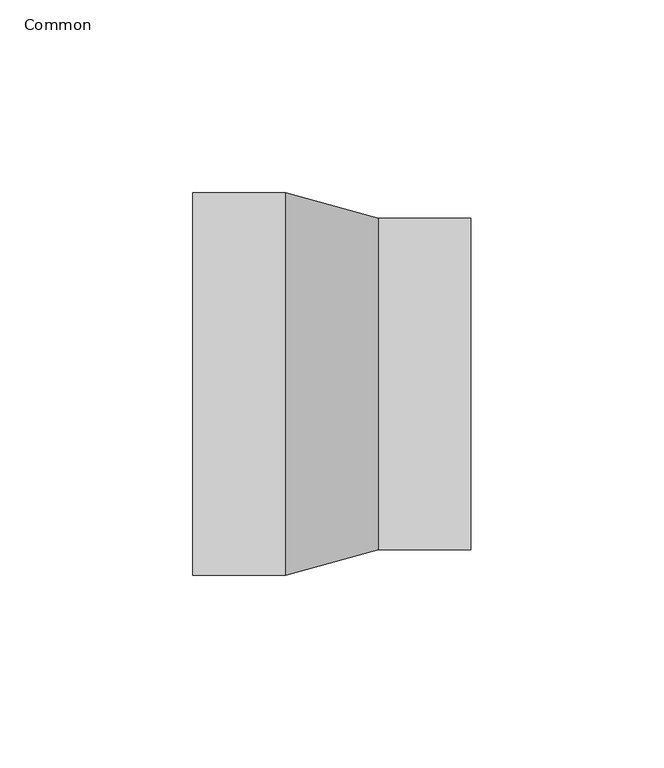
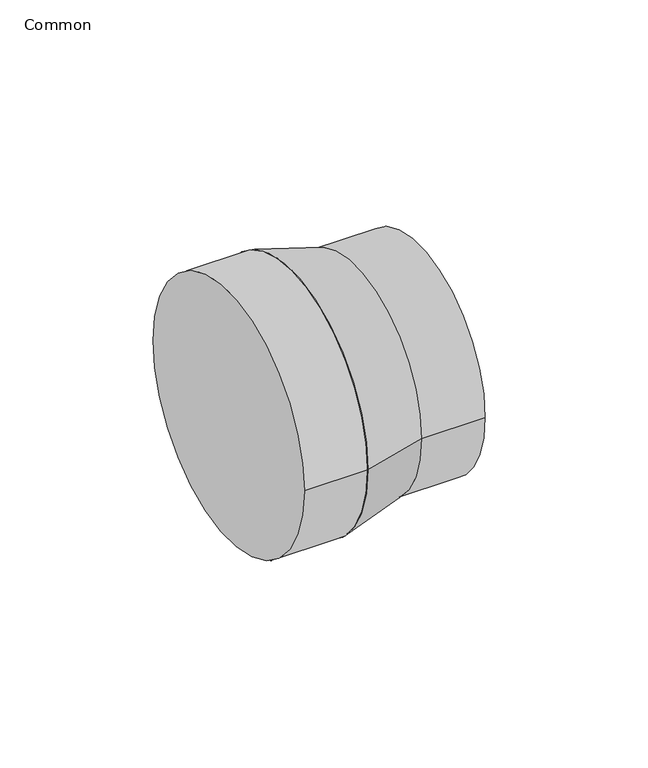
"""IFC4 building model written with IfcOpenShell, lengths in millimetres: pipe fitting geometry, 041_レジューサ : Common."""

from ifc_helpers import new_model, si_unit, point, frame, origin, origin_2d, place, context, project, spatial, polyline, circle_curve, trimmed, segment, composite_curve, outline, extrude, source, transform, mapped, element, save
from ifc_brep_helpers import plane_surface, revolved_surface, advanced_brep


def common_364c500f(model_context):
    return source(origin(), model_context, "Body", "SolidModel", [
        advanced_brep(
        [(48.0, -43.0, 0.0), (48.0, 43.0, 0.0), (24.0, -49.5, 0.0), (24.0, 49.5, 0.0)],
        [
            (0, 1, circle_curve(frame((48.0, 0.0, 0.0), z_axis=(1.0, 0.0, 0.0), x_axis=(0.0, -1.0, 0.0)), 43.0)),
            (1, 0, circle_curve(frame((48.0, 0.0, 0.0), z_axis=(1.0, 0.0, 0.0), x_axis=(0.0, 1.0, 0.0)), 43.0)),
            (2, 3, circle_curve(frame((24.0, 0.0, 0.0), z_axis=(-1.0, 0.0, 0.0), x_axis=(0.0, 1.0, 0.0)), 49.5)),
            (3, 2, circle_curve(frame((24.0, 0.0, 0.0), z_axis=(-1.0, 0.0, 0.0), x_axis=(0.0, -1.0, 0.0)), 49.5)),
            (3, 1),
            (0, 2),
        ],
        [
            plane_surface(frame((48.0, 0.0, 0.0), z_axis=(1.0, 0.0, 0.0), x_axis=(0.0, 0.0, -1.0))),
            plane_surface(frame((24.0, 0.0, 0.0), z_axis=(-1.0, 0.0, 0.0), x_axis=(0.0, 0.0, -1.0))),
            revolved_surface(polyline([(48.0, -43.00000000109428, 0.0), (24.0, -49.5, 0.0)]), (206.7692308, 0.0, 0.0), (-1.0, 0.0, 0.0)),
            revolved_surface(polyline([(48.0, 43.00000000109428, 0.0), (24.0, 49.5, 0.0)]), (206.7692308, 0.0, 0.0), (-1.0, 0.0, 0.0)),
        ],
        [
            (0, [[1, 2]]),
            (1, [[3, 4]]),
            (2, [[-4, 5, -1, 6]]),
            (3, [[-3, -6, -2, -5]]),
        ],
    ),
        extrude(outline(composite_curve([segment(trimmed(circle_curve(origin_2d(), 43.0), [point((-43.0, 0.0))], [point((43.0, 0.0))], False, "CARTESIAN"), True, "CONTINUOUS"), segment(trimmed(circle_curve(origin_2d(), 43.0), [point((43.0, 0.0))], [point((-43.0, 0.0))], False, "CARTESIAN"), True, "CONTINUOUS")], self_intersect=False)), frame((48.0, 0.0, 0.0), z_axis=(1.0, 0.0, 0.0), x_axis=(0.0, 1.0, 0.0)), (0.0, 0.0, 1.0), 24.0),
        extrude(outline(composite_curve([segment(trimmed(circle_curve(origin_2d(), 49.5), [point((-49.5, 0.0))], [point((49.5, 0.0))], False, "CARTESIAN"), True, "CONTINUOUS"), segment(trimmed(circle_curve(origin_2d(), 49.5), [point((49.5, 0.0))], [point((-49.5, 0.0))], False, "CARTESIAN"), True, "CONTINUOUS")], self_intersect=False)), frame((0.0, 0.0, 0.0), z_axis=(1.0, 0.0, 0.0), x_axis=(0.0, 1.0, 0.0)), (0.0, 0.0, 1.0), 24.0),
    ])


if __name__ == "__main__":
    model = new_model("IFC4")
    model_context = context("Model", 3, world=origin())
    ifc_project = project(units=[si_unit("LENGTHUNIT", "METRE", prefix="MILLI")], contexts=[model_context])
    site = spatial("IfcSite", under=ifc_project)
    building = spatial("IfcBuilding", under=site)
    placement = place(None, origin())
    common_shape = common_364c500f(model_context)
    element("IfcPipeFitting", 1, ObjectType="041_レジューサ : Common", at=placement, inside=building, context=model_context, shape_type="MappedRepresentation", body=[
        mapped(common_shape, transform((0.0, 0.0, 0.0), x_axis=(1.0, 0.0, 0.0), y_axis=(0.0, 1.0, 0.0), z_axis=(0.0, 0.0, 1.0))),
    ])
    save(model, "model.ifc")
